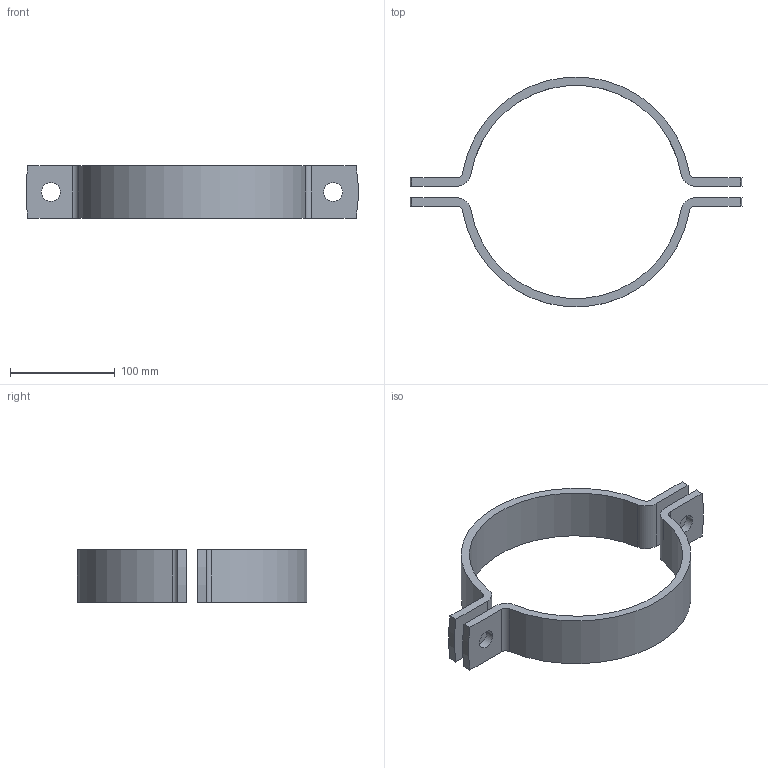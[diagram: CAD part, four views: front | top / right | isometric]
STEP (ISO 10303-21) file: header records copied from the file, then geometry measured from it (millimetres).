
FILE_DESCRIPTION (( 'STEP AP203' ), '1' );
FILE_NAME ('NW200-204 (DIN 3567).STEP', '2023-12-08T11:34:52', ( '' ), ( '' ), 'SwSTEP 2.0', 'SolidWorks 2023', '' );
FILE_SCHEMA (( 'CONFIG_CONTROL_DESIGN' ));
Length unit declared in the file: millimetre
Products named in the file (1): NW200-204 (DIN 3567)
Bounding box: 317.56 x 219.25 x 50 mm (x, y, z)
Volume: 322437 mm3; surface area: 97164.2 mm2
Topology: 2 solids, 2 shells, 36 faces, 96 edges, 64 vertices
Faces by surface type: cylinder 24, plane 12
Entity records: 1239 total; most frequent: DIRECTION 218, CARTESIAN_POINT 197, ORIENTED_EDGE 192, EDGE_CURVE 96, AXIS2_PLACEMENT_3D 85, VERTEX_POINT 64, VECTOR 48, LINE 48
